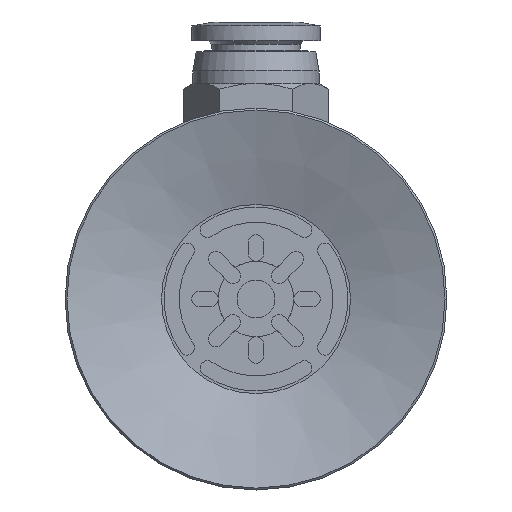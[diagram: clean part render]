
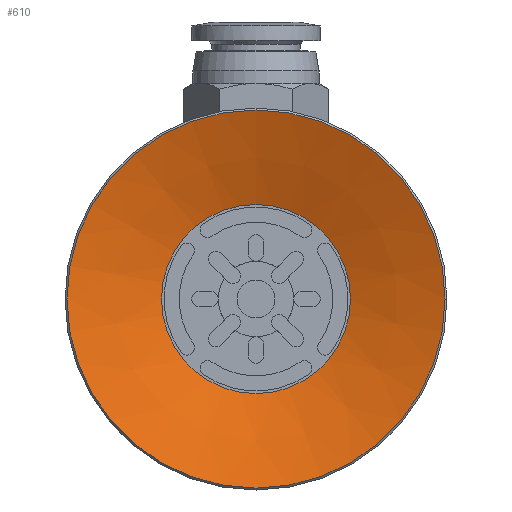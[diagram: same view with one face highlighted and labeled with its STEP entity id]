
A CAD part, front view. The second image highlights one B-rep face of the part: STEP entity #610.
In plain terms, the highlighted conical face has half-angle 70.201 degrees and reference radius 7.5 mm.
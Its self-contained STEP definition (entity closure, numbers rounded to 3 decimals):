
#610=ADVANCED_FACE('',(#1054,#1055),#1056,.F.);
#1054=FACE_BOUND('',#1799,.T.);
#1055=FACE_OUTER_BOUND('',#1800,.T.);
#1056=CONICAL_SURFACE('',#1801,7.5,1.225);
#1799=EDGE_LOOP('',(#2981));
#1800=EDGE_LOOP('',(#2982));
#1801=AXIS2_PLACEMENT_3D('',#2983,#2984,#2985);
#2981=ORIENTED_EDGE('',*,*,#3851,.F.);
#2982=ORIENTED_EDGE('',*,*,#3852,.T.);
#2983=CARTESIAN_POINT('',(0.0,0.0,2.7));
#2984=DIRECTION('',(0.0,0.,-1.0));
#2985=DIRECTION('',(0.0,1.0,0.));
#3851=EDGE_CURVE('',#4538,#4538,#4539,.T.);
#3852=EDGE_CURVE('',#4540,#4540,#4541,.T.);
#4538=VERTEX_POINT('',#6116);
#4539=CIRCLE('',#6117,7.5);
#4540=VERTEX_POINT('',#6118);
#4541=CIRCLE('',#6119,15.0);
#6116=CARTESIAN_POINT('',(0.0,7.5,2.7));
#6117=AXIS2_PLACEMENT_3D('',#6896,#6897,#6898);
#6118=CARTESIAN_POINT('',(0.0,15.0,0.));
#6119=AXIS2_PLACEMENT_3D('',#6899,#6900,#6901);
#6896=CARTESIAN_POINT('',(0.0,0.0,2.7));
#6897=DIRECTION('',(0.0,0.,-1.0));
#6898=DIRECTION('',(0.0,1.0,0.));
#6899=CARTESIAN_POINT('',(0.0,0.0,0.0));
#6900=DIRECTION('',(0.0,0.,-1.0));
#6901=DIRECTION('',(0.0,1.0,0.));
